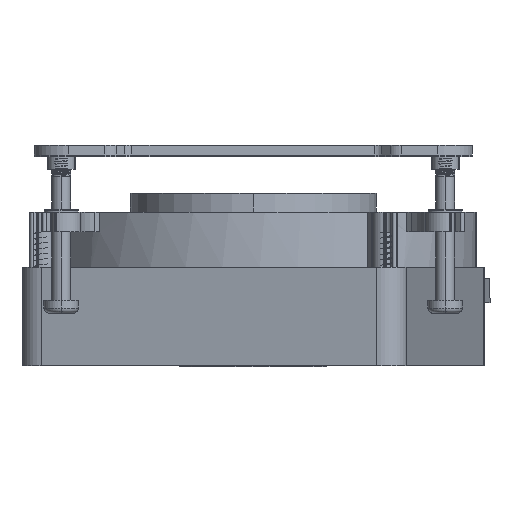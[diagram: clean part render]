
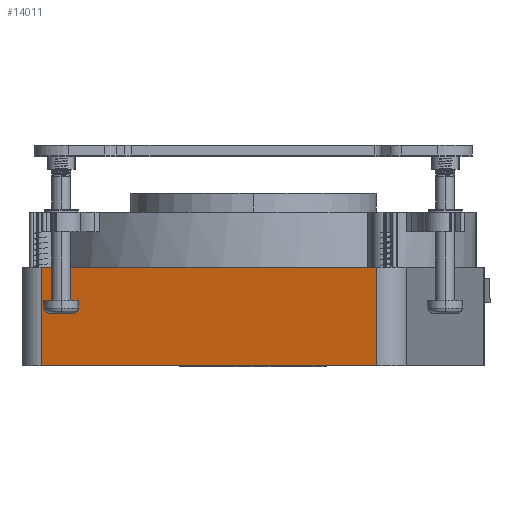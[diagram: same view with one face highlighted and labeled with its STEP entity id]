
A CAD part, front view. The second image highlights one B-rep face of the part: STEP entity #14011.
In plain terms, the highlighted planar face has unit normal (-0.225, -0.974, 0) as drawn and (0, 0, -1) by its records, which use the part's own axes.
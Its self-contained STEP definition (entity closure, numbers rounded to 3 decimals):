
#13748=DIRECTION('',(0.,-1.,0.));
#13749=VECTOR('',#13748,20.);
#13750=CARTESIAN_POINT('',(35.,3.,-40.));
#13751=LINE('',#13750,#13749);
#13812=DIRECTION('',(0.,1.,0.));
#13813=VECTOR('',#13812,20.);
#13814=CARTESIAN_POINT('',(-35.,-17.,-40.));
#13815=LINE('',#13814,#13813);
#13820=DIRECTION('',(-1.,0.,0.));
#13821=VECTOR('',#13820,70.);
#13822=CARTESIAN_POINT('',(35.,3.,-40.));
#13823=LINE('',#13822,#13821);
#13824=DIRECTION('',(1.,0.,0.));
#13825=VECTOR('',#13824,70.);
#13826=CARTESIAN_POINT('',(-35.,-17.,-40.));
#13827=LINE('',#13826,#13825);
#13828=CARTESIAN_POINT('',(35.,3.,-40.));
#13830=VERTEX_POINT('',#13828);
#13842=CARTESIAN_POINT('',(-35.,3.,-40.));
#13843=VERTEX_POINT('',#13842);
#13846=CARTESIAN_POINT('',(35.,-17.,-40.));
#13847=VERTEX_POINT('',#13846);
#13858=CARTESIAN_POINT('',(-35.,-17.,-40.));
#13859=VERTEX_POINT('',#13858);
#14000=CARTESIAN_POINT('',(-35.,3.,-40.));
#14001=DIRECTION('',(0.,0.,1.));
#14002=DIRECTION('',(1.,0.,0.));
#14003=AXIS2_PLACEMENT_3D('',#14000,#14001,#14002);
#14004=PLANE('',#14003);
#14005=ORIENTED_EDGE('',*,*,#13892,.F.);
#14006=ORIENTED_EDGE('',*,*,#13879,.T.);
#14007=ORIENTED_EDGE('',*,*,#13992,.F.);
#14008=ORIENTED_EDGE('',*,*,#13928,.T.);
#14009=EDGE_LOOP('',(#14005,#14006,#14007,#14008));
#14010=FACE_OUTER_BOUND('',#14009,.F.);
#14011=ADVANCED_FACE('',(#14010),#14004,.F.);
#13879=EDGE_CURVE('',#13830,#13843,#13823,.T.);
#13892=EDGE_CURVE('',#13830,#13847,#13751,.T.);
#13928=EDGE_CURVE('',#13859,#13847,#13827,.T.);
#13992=EDGE_CURVE('',#13859,#13843,#13815,.T.);
